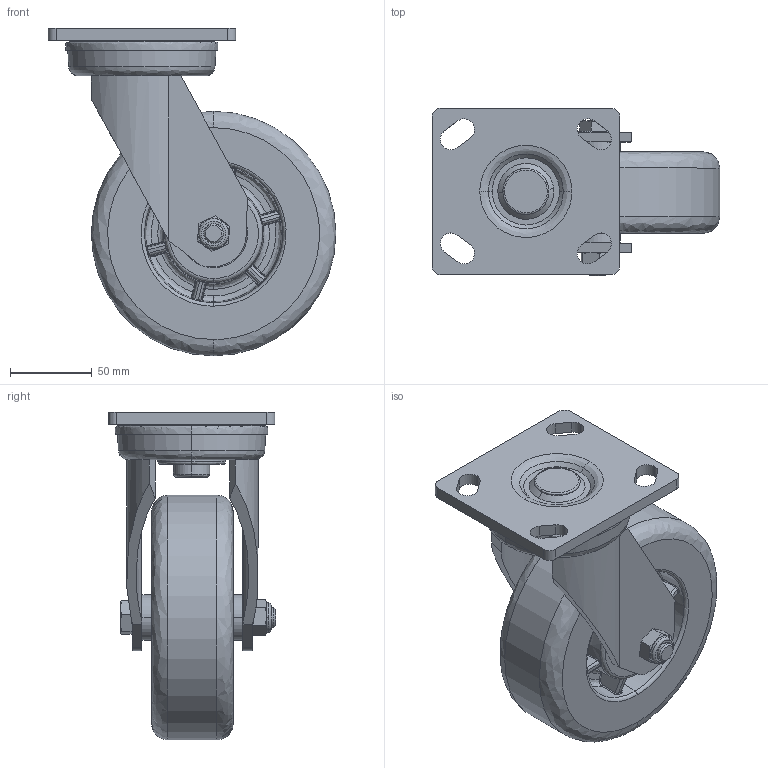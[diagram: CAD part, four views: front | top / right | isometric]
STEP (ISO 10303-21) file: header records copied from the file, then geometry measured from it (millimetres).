
FILE_DESCRIPTION (( 'STEP AP203' ), '1' );
FILE_NAME ('36A6寸万向（小底板）.STEP', '2026-03-13T01:24:22', ( 'MUSE' ), ( 'MUSE' ), 'SwSTEP 2.0', 'SolidWorks 2024', '' );
FILE_SCHEMA (( 'CONFIG_CONTROL_DESIGN' ));
Length unit declared in the file: millimetre
Products named in the file (1): 36A6寸万向（小底板）
Bounding box: 176.5 x 102.5 x 201 mm (x, y, z)
Volume: 1017969.4 mm3; surface area: 189222.6 mm2
Topology: 1 solids, 4 shells, 1073 faces, 2692 edges, 1642 vertices
Faces by surface type: plane 408, bspline 284, cylinder 284, cone 97
Entity records: 53215 total; most frequent: CARTESIAN_POINT 28767, ORIENTED_EDGE 5384, DIRECTION 4910, EDGE_CURVE 2692, AXIS2_PLACEMENT_3D 1951, VERTEX_POINT 1642, CIRCLE 1161, EDGE_LOOP 1146
